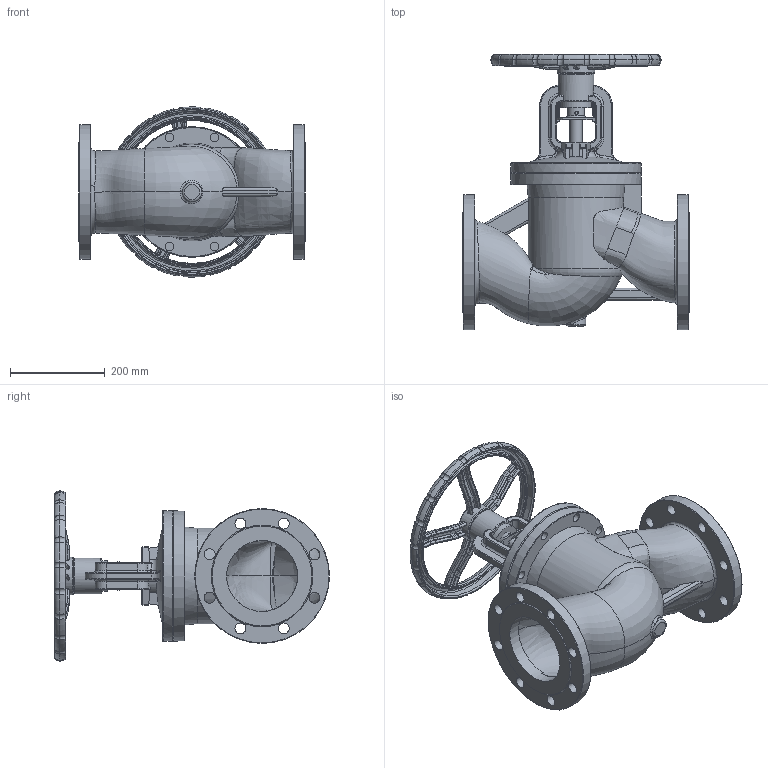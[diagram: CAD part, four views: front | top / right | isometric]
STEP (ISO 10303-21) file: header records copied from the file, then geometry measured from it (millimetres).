
FILE_DESCRIPTION(/* description */ ('STEP AP203'),/* implementation_level */ '2;1');
FILE_NAME(/* name */ '',/* time_stamp */ '2025-02-21T11:55:23+07:00',/* author */ ('Eva'),/* organization */ (''),/* preprocessor_version */ 'ST-DEVELOPER v20',/* originating_system */ 'Autodesk Inventor 2025',/* authorisation */ '');
FILE_SCHEMA (('AUTOMOTIVE_DESIGN { 1 0 10303 214 3 1 1 }'));
Products named in the file (7): 波纹管-150; 德标波纹管150阀体; 波纹管截止阀盖150; 波纹管150阀杆螺母; 波纹管阀杆150; 150手轮; 波纹管150限位板
Assembly tree (6 placements, depth 2):
  波纹管-150
    德标波纹管150阀体
    波纹管截止阀盖150
    波纹管150阀杆螺母
    波纹管阀杆150
    150手轮
    波纹管150限位板
Bounding box: 480 x 581.5 x 359.97 mm (x, y, z)
Volume: 9706085.2 mm3; surface area: 1474608.1 mm2
Topology: 6 solids, 6 shells, 1138 faces, 3048 edges, 1909 vertices
Faces by surface type: cylinder 449, plane 266, bspline 216, torus 170, cone 24, sphere 13
Full cylindrical faces by diameter (mm): 7 x2, 8 x2, 9.5 x1, 18 x16, 23 x17, 23.709 x25, 26 x27, 27 x1, 27.5 x1, 35.5 x1, 36.8 x1, 48 x1, 49 x1, 52 x2, 55 x1, 64 x1, 72 x1, 76 x1, 80 x1, 135 x1, 150 x2, 154 x1, 159 x1, 178 x2, 195 x1, 208 x1, 275 x1, 276 x1, 285 x2
Entity records: 294100 total; most frequent: CARTESIAN_POINT 266812, ORIENTED_EDGE 6056, DIRECTION 5329, EDGE_CURVE 3028, AXIS2_PLACEMENT_3D 2196, VERTEX_POINT 1909, EDGE_LOOP 1249, CIRCLE 1207
